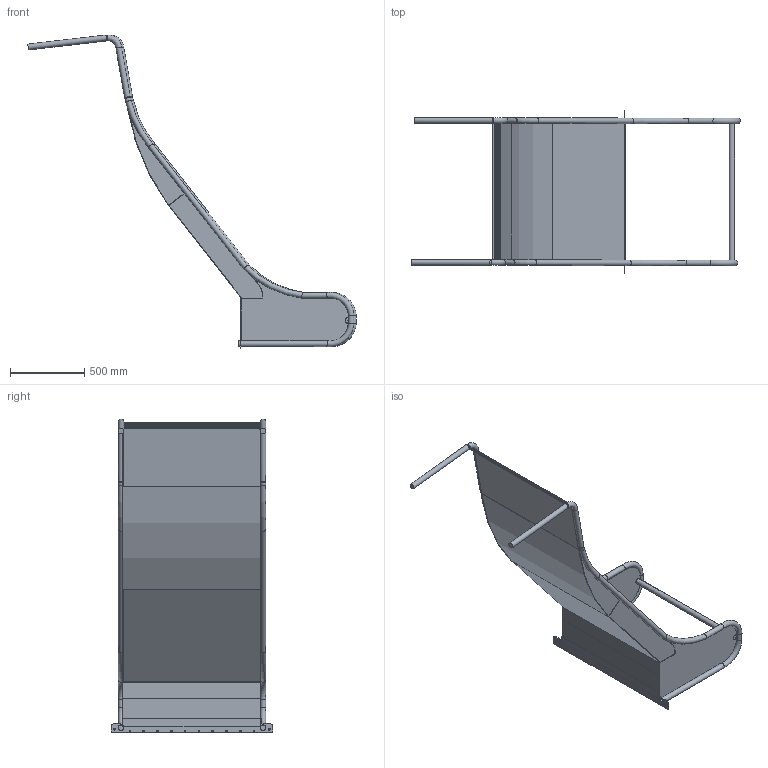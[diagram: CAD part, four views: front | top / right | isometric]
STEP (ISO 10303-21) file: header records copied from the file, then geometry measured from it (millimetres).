
FILE_DESCRIPTION(/* description */ (''),/* implementation_level */ '2;1');
FILE_NAME(/* name */ 'F:\_Inventor\- Tegningsmateriale - kunder\PlayNsafe\PlayNsafe Rutchebaner\Ny mappe\120-1000-1000.stp',/* time_stamp */ '2026-09-08T14:21:16+02:00',/* author */ ('jm'),/* organization */ (''),/* preprocessor_version */ 'ST-DEVELOPER v18.1',/* originating_system */ 'Autodesk Inventor 2022',/* authorisation */ '');
FILE_SCHEMA (('AUTOMOTIVE_DESIGN { 1 0 10303 214 3 1 1 }'));
Length unit declared in the file: millimetre
Products named in the file (11): Assembly2; 120-1000-1000 indløb; 120-1000-1000 udløb; 120-2400-1000 bue; 120-2400-1000 udløb; Lb2200 venstre; 120-2400-1000 øre; 120-2400-1000 fortryderstang; 120-2400-1000 monteringsflange; 120-1000-500 rør; 120-2400-1000 forlængerplade til lang siddeområ
de
Assembly tree (13 placements, depth 3):
  Assembly2
    120-1000-1000 indløb
    120-1000-1000 udløb
      120-2400-1000 bue
      120-2400-1000 udløb
      Lb2200 venstre  x2
    120-2400-1000 øre  x2
    120-2400-1000 fortryderstang
    120-2400-1000 monteringsflange
    120-1000-500 rør  x2
    120-2400-1000 forlængerplade til lang siddeområ
de
Bounding box: 2213.22 x 1091.5 x 2115.01 mm (x, y, z)
Volume: 16053679.1 mm3; surface area: 7456286.9 mm2
Topology: 12 solids, 12 shells, 283 faces, 683 edges, 428 vertices
Faces by surface type: plane 147, cylinder 109, cone 10, torus 10, bspline 7
Full cylindrical faces by diameter (mm): 2 x2, 6.5 x10, 11 x1, 13 x1, 34 x1, 38 x21
Entity records: 8709 total; most frequent: CARTESIAN_POINT 2674, DIRECTION 1236, ORIENTED_EDGE 1134, EDGE_CURVE 567, AXIS2_PLACEMENT_3D 440, LINE 356, VECTOR 356, VERTEX_POINT 350
